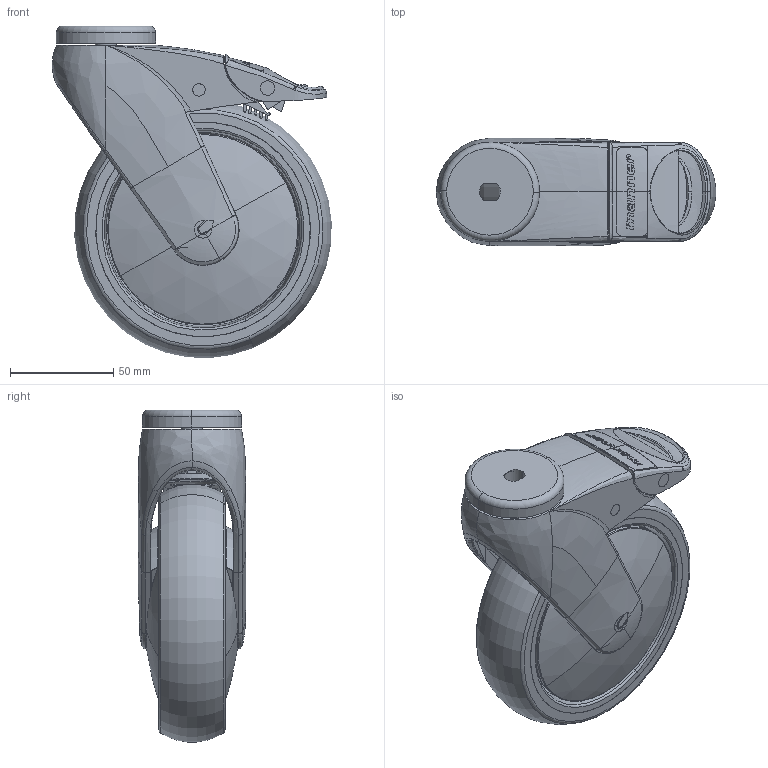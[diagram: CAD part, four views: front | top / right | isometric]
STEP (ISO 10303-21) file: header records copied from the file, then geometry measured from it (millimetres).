
FILE_DESCRIPTION (( 'STEP AP203' ), '1' );
FILE_NAME ('301672_STEP.STEP', '2011-06-10T07:36:07', ( '' ), ( '' ), 'SwSTEP 2.0', 'SolidWorks 2011', '' );
FILE_SCHEMA (( 'CONFIG_CONTROL_DESIGN' ));
Length unit declared in the file: millimetre
Products named in the file (1): 301672_STEP
Bounding box: 135.31 x 52 x 160.76 mm (x, y, z)
Surface area: 113074.8 mm2 (no closed solid volume)
Topology: 0 solids, 34 shells, 588 faces, 2860 edges, 2231 vertices
Faces by surface type: bspline 290, plane 145, cylinder 80, torus 41, cone 28, sphere 4
Entity records: 95536 total; most frequent: CARTESIAN_POINT 77520, ORIENTED_EDGE 4561, EDGE_CURVE 2849, VERTEX_POINT 2231, DIRECTION 1996, B_SPLINE_CURVE_WITH_KNOTS 1712, AXIS2_PLACEMENT_3D 716, EDGE_LOOP 621
